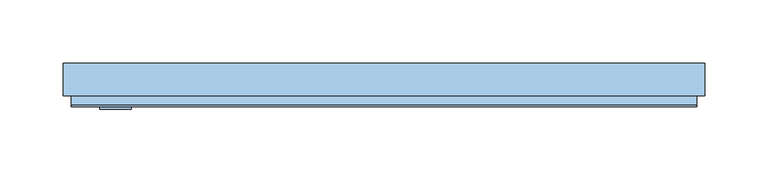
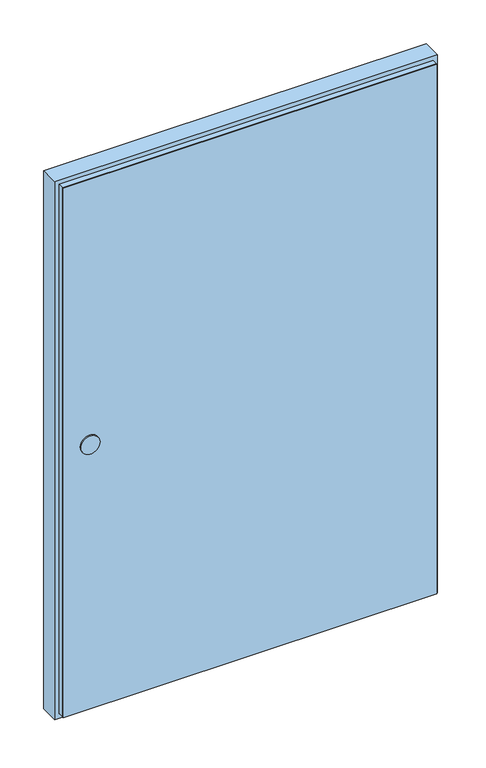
"""IFC4 building model written with IfcOpenShell, lengths in millimetres: window geometry, H110 Puertas nichos chapa perforada : H110 Puerta nicho garrafa."""

from ifc_helpers import new_model, si_unit, point, frame, frame_2d, origin, place, context, project, spatial, polyline, circle_curve, trimmed, segment, composite_curve, outline, extrude, faceted_brep, source, transform, mapped, element, save


def window_4325c9d2(model_context):
    return source(origin(), model_context, "Body", "SolidModel", [
        extrude(outline(composite_curve([segment(trimmed(circle_curve(frame_2d((1175.0, -211.5)), 12.5), [point((1175.0, -224.0))], [point((1175.0, -199.0))], False, "CARTESIAN"), True, "CONTINUOUS"), segment(trimmed(circle_curve(frame_2d((1175.0, -211.5)), 12.5), [point((1175.0, -199.0))], [point((1175.0, -224.0))], False, "CARTESIAN"), True, "CONTINUOUS")], self_intersect=False)), frame((0.0, -150.7, 0.0), z_axis=(0.0, 1.0, 0.0), x_axis=(0.0, 0.0, 1.0)), (0.0, 0.0, 1.0), 20.0),
        faceted_brep([(246.5, -147.4, 1544.0), (246.5, -147.4, 806.0), (246.5, -122.0, 806.0), (246.5, -122.0, 1544.0), (-246.5, -122.0, 806.0), (-246.5, -122.0, 1544.0), (242.0, -122.0, 810.5), (242.0, -122.0, 1539.5), (-242.0, -122.0, 1539.5), (-242.0, -122.0, 810.5), (-246.5, -147.4, 806.0), (-246.5, -147.4, 1544.0), (221.1, -147.4, 1518.6), (221.1, -147.4, 831.4), (-221.1, -147.4, 831.4), (-221.1, -147.4, 1518.6), (242.0, -142.9, 810.5), (242.0, -142.9, 1539.5), (-242.0, -142.9, 810.5), (-242.0, -142.9, 1539.5), (221.1, -142.9, 831.4), (221.1, -142.9, 1518.6), (-221.1, -142.9, 1518.6), (-221.1, -142.9, 831.4)], [[[0, 1, 2, 3]], [[3, 2, 4, 5], [6, 7, 8, 9]], [[1, 10, 4, 2]], [[1, 0, 11, 10], [12, 13, 14, 15]], [[7, 6, 16, 17]], [[17, 16, 18, 19], [20, 21, 22, 23]], [[6, 9, 18, 16]], [[21, 20, 13, 12]], [[20, 23, 14, 13]], [[10, 11, 5, 4]], [[9, 8, 19, 18]], [[23, 22, 15, 14]], [[11, 0, 3, 5]], [[8, 7, 17, 19]], [[22, 21, 12, 15]]]),
        extrude(outline(polyline([(-246.5, -148.7), (-246.5, -147.4), (246.5, -147.4), (246.5, -148.7), (-246.5, -148.7)])), frame((0.0, 0.0, 806.0), z_axis=(0.0, 0.0, 1.0), x_axis=(1.0, 0.0, 0.0)), (0.0, 0.0, 1.0), 738.0),
        faceted_brep([(-252.5, -114.7, 1550.0), (-252.5, -114.7, 800.0), (-252.5, -140.1, 800.0), (-252.5, -140.1, 1550.0), (252.5, -140.1, 800.0), (252.5, -140.1, 1550.0), (-246.5, -140.1, 806.0), (-246.5, -140.1, 1544.0), (246.5, -140.1, 1544.0), (246.5, -140.1, 806.0), (252.5, -114.7, 800.0), (252.5, -114.7, 1550.0), (-227.1, -114.7, 1524.6), (-227.1, -114.7, 825.4), (227.1, -114.7, 825.4), (227.1, -114.7, 1524.6), (-246.5, -120.7, 806.0), (-246.5, -120.7, 1544.0), (246.5, -120.7, 806.0), (246.5, -120.7, 1544.0), (-227.1, -120.7, 825.4), (-227.1, -120.7, 1524.6), (227.1, -120.7, 1524.6), (227.1, -120.7, 825.4)], [[[0, 1, 2, 3]], [[3, 2, 4, 5], [6, 7, 8, 9]], [[1, 10, 4, 2]], [[1, 0, 11, 10], [12, 13, 14, 15]], [[7, 6, 16, 17]], [[17, 16, 18, 19], [20, 21, 22, 23]], [[6, 9, 18, 16]], [[21, 20, 13, 12]], [[20, 23, 14, 13]], [[10, 11, 5, 4]], [[9, 8, 19, 18]], [[23, 22, 15, 14]], [[11, 0, 3, 5]], [[8, 7, 17, 19]], [[22, 21, 12, 15]]]),
    ])


if __name__ == "__main__":
    model = new_model("IFC4")
    model_context = context("Model", 3, world=origin())
    ifc_project = project(units=[si_unit("LENGTHUNIT", "METRE", prefix="MILLI")], contexts=[model_context])
    site = spatial("IfcSite", under=ifc_project)
    building = spatial("IfcBuilding", under=site)
    placement = place(None, origin())
    window_shape = window_4325c9d2(model_context)
    element("IfcWindow", 1, ObjectType="H110 Puertas nichos chapa perforada : H110 Puerta nicho garrafa", at=placement, inside=building, context=model_context, shape_type="MappedRepresentation", body=[
        mapped(window_shape, transform((0.0, 0.0, 0.0), x_axis=(1.0, 0.0, 0.0), y_axis=(0.0, 1.0, 0.0), z_axis=(0.0, 0.0, 1.0))),
    ])
    save(model, "model.ifc")
